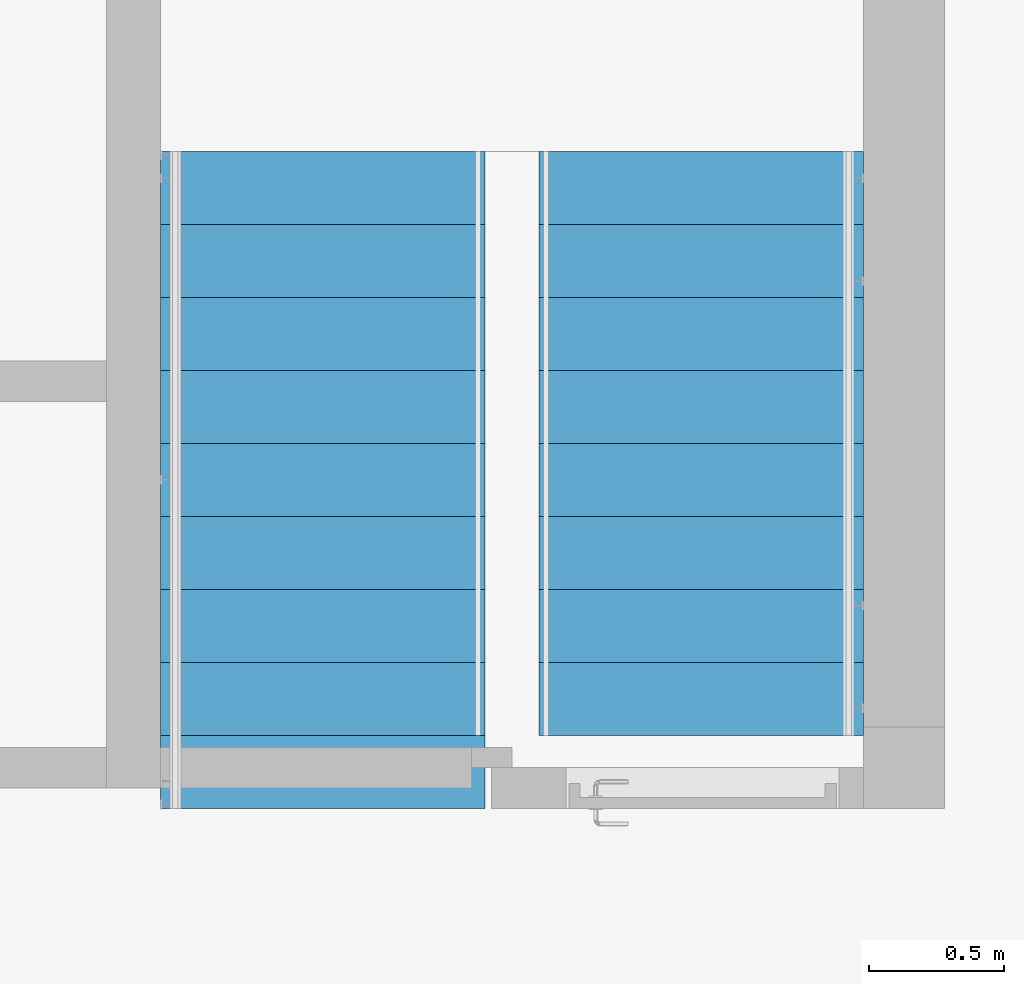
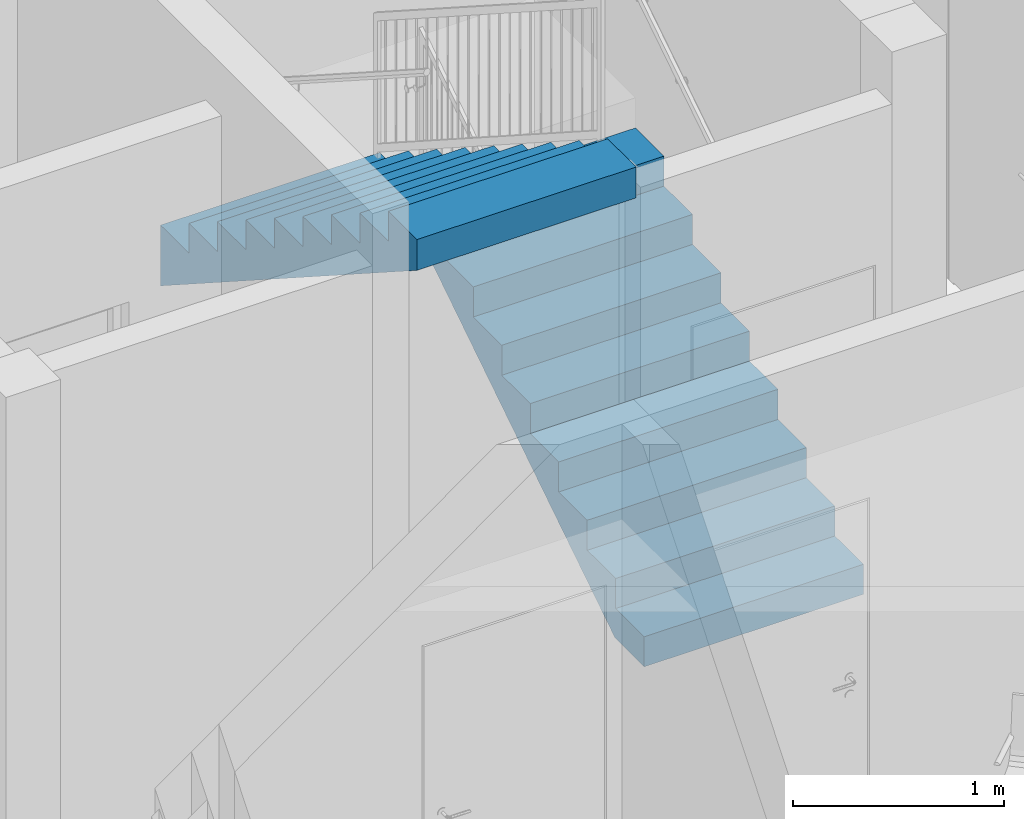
# One storey, part 38 of 58: 2 stair flights, 1 element without a shape of its own.
"""IFC2X3 building model written with IfcOpenShell, lengths in millimetres."""

from ifc_helpers import new_model, entity, si_unit, converted_unit, derived_unit, direction, frame, origin, place, context, subcontext, project, spatial, faceted_brep, material, type_object, element, aggregate, save


model = new_model("IFC2X3")

# Units and contexts
model_context = context("Model", 3, precision=0.01, world=origin(), true_north=direction((0.7716245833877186, 0.6360782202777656)))
body_context = subcontext(model_context, "Body", "Model", "MODEL_VIEW")
ifc_project = project(units=[si_unit("LENGTHUNIT", "METRE", prefix="MILLI"), si_unit("AREAUNIT", "SQUARE_METRE"), converted_unit("PLANEANGLEUNIT", "DEGREE", entity("IfcPlaneAngleMeasure", 0.017453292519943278), si_unit("PLANEANGLEUNIT", "RADIAN"), dimensions=[0, 0, 0, 0, 0, 0, 0]), derived_unit("THERMALTRANSMITTANCEUNIT", [(si_unit("MASSUNIT", "GRAM", prefix="KILO"), 1), (si_unit("THERMODYNAMICTEMPERATUREUNIT", "KELVIN"), -1), (si_unit("TIMEUNIT", "SECOND"), -3)])], contexts=[model_context])

# Site, building, storey
site_placement = place(None, origin())
site = spatial("IfcSite", under=ifc_project, at=site_placement, Name="Default", CompositionType="ELEMENT")
building_placement = place(site_placement, origin())
building = spatial("IfcBuilding", under=site, at=building_placement, CompositionType="ELEMENT")
storey_placement = place(building_placement, frame((0.0, 0.0, 31140.0)))
storey = spatial("IfcBuildingStorey", under=building, at=storey_placement, Name="PLAN U1", CompositionType="ELEMENT", Elevation=31140.000000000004)

# Stair, stair flights
type_product = type_object("IfcTypeProduct", Name="Cast-In-Place Stair:Cast-In-Place Stair")
stair_placement = place(storey_placement, origin())
stair = element("IfcStair", 1, at=stair_placement, inside=storey, type_object=type_product, Name="Cast-In-Place Stair:Stair", ObjectType="Cast-In-Place Stair:Cast-In-Place Stair", ShapeType="HALF_TURN_STAIR")
ifc_material = material(Name="<Unnamed>")
stair_flight_type = type_object("IfcStairFlightType", Name="Monolithic Run:Monolithic Run", PredefinedType="STRAIGHT")
stair_flight_1_placement = place(stair_placement, frame((269417.924446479, 59435.25555007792, 0.0)))
stair_flight_1 = element("IfcStairFlight", 2, at=stair_flight_1_placement, type_object=stair_flight_type, material=ifc_material, Name="Cast-In-Place Stair:Stair:4303045 Run 1", ObjectType="Monolithic Run:Monolithic Run", NumberOfRiser=9, NumberOfTreads=8, RiserHeight=0.569830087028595, TreadLength=0.8858267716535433, context=body_context, shape_type="Brep", body=[
    faceted_brep([(0.0, 270.0, 173.68421052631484), (0.0, 0.0, 173.68421052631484), (1200.0, 0.0, 173.68421052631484), (1200.0, 270.0, 173.68421052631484), (0.0, 270.0, 0.0), (0.0, 0.0, 0.0), (1200.0, 0.0, 0.0), (1200.0, 270.0, 0.0), (0.0, 540.0, 347.3684210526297), (0.0, 270.0, 347.3684210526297), (1200.0, 270.0, 347.3684210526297), (1200.0, 540.0, 347.3684210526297), (0.0, 540.0, 169.01327788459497), (0.0, 277.2611771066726, 0.0), (1200.0, 277.26117710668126, 0.0), (1200.0, 540.0, 169.01327788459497), (0.0, 810.0, 521.0526315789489), (0.0, 540.0, 521.0526315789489), (1200.0, 540.0, 521.0526315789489), (1200.0, 810.0, 521.0526315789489), (0.0, 810.0, 342.6974884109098), (1200.0, 810.0, 342.6974884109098), (0.0, 1080.0, 694.7368421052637), (0.0, 810.0, 694.7368421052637), (1200.0, 810.0, 694.7368421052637), (1200.0, 1080.0, 694.7368421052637), (0.0, 1080.0, 516.381698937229), (1200.0, 1080.0, 516.3816989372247), (0.0, 1350.0, 868.4210526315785), (0.0, 1080.0, 868.4210526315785), (1200.0, 1080.0, 868.4210526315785), (1200.0, 1350.0, 868.4210526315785), (0.0, 1350.0, 690.0659094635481), (1200.0, 1350.0, 690.0659094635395), (0.0, 1620.0, 1042.1052631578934), (0.0, 1350.0, 1042.1052631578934), (1200.0, 1350.0, 1042.1052631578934), (1200.0, 1620.0, 1042.1052631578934), (0.0, 1620.0, 863.7501199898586), (1200.0, 1620.0, 863.7501199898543), (0.0, 1890.0, 1215.7894736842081), (0.0, 1620.0, 1215.7894736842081), (1200.0, 1620.0, 1215.7894736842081), (1200.0, 1890.0, 1215.7894736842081), (0.0, 1890.0, 1037.4343305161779), (1200.0, 1890.0, 1037.4343305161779), (0.0, 2160.0, 1389.4736842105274), (0.0, 1890.0, 1389.4736842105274), (1200.0, 1890.0, 1389.4736842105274), (1200.0, 2160.0, 1389.4736842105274), (0.0, 2160.0, 1263.157894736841), (0.0, 2160.0, 1211.1185410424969), (1200.0, 2160.0, 1211.1185410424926)], [[[0, 1, 2, 3]], [[1, 0, 4, 5]], [[2, 1, 5, 6]], [[3, 2, 6, 7]], [[8, 9, 10, 11]], [[4, 0, 9, 8, 12, 13]], [[0, 3, 10, 9]], [[3, 7, 14, 15, 11, 10]], [[16, 17, 18, 19]], [[17, 16, 20, 12, 8]], [[8, 11, 18, 17]], [[19, 18, 11, 15, 21]], [[22, 23, 24, 25]], [[23, 22, 26, 20, 16]], [[16, 19, 24, 23]], [[25, 24, 19, 21, 27]], [[28, 29, 30, 31]], [[29, 28, 32, 26, 22]], [[22, 25, 30, 29]], [[31, 30, 25, 27, 33]], [[34, 35, 36, 37]], [[35, 34, 38, 32, 28]], [[28, 31, 36, 35]], [[37, 36, 31, 33, 39]], [[40, 41, 42, 43]], [[41, 40, 44, 38, 34]], [[34, 37, 42, 41]], [[43, 42, 37, 39, 45]], [[46, 47, 48, 49]], [[47, 46, 50, 51, 44, 40]], [[40, 43, 48, 47]], [[49, 48, 43, 45, 52]], [[46, 49, 52, 51, 50]], [[5, 4, 13, 14, 7, 6]], [[14, 13, 12, 20, 26, 32, 38, 44, 51, 52, 45, 39, 33, 27, 21, 15]]]),
])
stair_flight_2_placement = place(stair_placement, frame((268017.924446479, 59165.25555007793, 0.0)))
stair_flight_2 = element("IfcStairFlight", 3, at=stair_flight_2_placement, type_object=stair_flight_type, material=ifc_material, Name="Cast-In-Place Stair:Stair:4303045 Run 2", ObjectType="Monolithic Run:Monolithic Run", NumberOfRiser=10, NumberOfTreads=9, RiserHeight=0.569830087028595, TreadLength=0.8858267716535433, context=body_context, shape_type="Brep", body=[
    faceted_brep([(1200.0, 2160.0, 1736.842105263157), (1200.0, 2430.0, 1736.842105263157), (0.0, 2430.0, 1736.842105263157), (0.0, 2160.0, 1736.842105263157), (1200.0, 2160.0, 1558.4869620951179), (1200.0, 2430.0, 1384.8027515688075), (0.0, 2430.0, 1384.8027515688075), (0.0, 2430.0, 1563.157894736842), (0.0, 2160.0, 1558.4869620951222), (1200.0, 1890.0, 1732.1711726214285), (1200.0, 1620.0, 1905.8553831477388), (1200.0, 1350.0, 2079.5395936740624), (1200.0, 1080.0, 2253.2238042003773), (1200.0, 810.0, 2426.9080147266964), (1200.0, 540.0, 2600.5922252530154), (1200.0, 270.0, 2774.2764357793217), (1200.0, 0.0, 2947.9606463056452), (0.0, 0.0, 2947.960646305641), (0.0, 270.0, 2774.2764357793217), (0.0, 540.0, 2600.5922252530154), (0.0, 810.0, 2426.9080147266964), (0.0, 1080.0, 2253.2238042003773), (0.0, 1350.0, 2079.5395936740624), (0.0, 1620.0, 1905.8553831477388), (0.0, 1890.0, 1732.1711726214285), (1200.0, 1890.0, 1910.5263157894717), (1200.0, 2160.0, 1910.5263157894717), (0.0, 2160.0, 1910.5263157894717), (0.0, 1890.0, 1910.5263157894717), (1200.0, 1620.0, 2084.210526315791), (1200.0, 1890.0, 2084.210526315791), (0.0, 1890.0, 2084.210526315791), (0.0, 1620.0, 2084.210526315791), (1200.0, 1350.0, 2257.894736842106), (1200.0, 1620.0, 2257.894736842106), (0.0, 1620.0, 2257.894736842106), (0.0, 1350.0, 2257.894736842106), (1200.0, 1080.0, 2431.578947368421), (1200.0, 1350.0, 2431.578947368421), (0.0, 1350.0, 2431.578947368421), (0.0, 1080.0, 2431.578947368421), (1200.0, 810.0, 2605.2631578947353), (1200.0, 1080.0, 2605.2631578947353), (0.0, 1080.0, 2605.2631578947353), (0.0, 810.0, 2605.2631578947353), (1200.0, 540.0, 2778.94736842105), (1200.0, 810.0, 2778.94736842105), (0.0, 810.0, 2778.94736842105), (0.0, 540.0, 2778.94736842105), (1200.0, 270.0, 2952.6315789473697), (1200.0, 540.0, 2952.6315789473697), (0.0, 540.0, 2952.6315789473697), (0.0, 270.0, 2952.6315789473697), (1200.0, 0.0, 3126.315789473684), (1200.0, 270.0, 3126.315789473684), (0.0, 270.0, 3126.315789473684), (0.0, 0.0, 3126.315789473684)], [[[0, 1, 2, 3]], [[1, 0, 4, 5]], [[2, 1, 5, 6, 7]], [[3, 2, 7, 6, 8]], [[5, 4, 9, 10, 11, 12, 13, 14, 15, 16, 17, 18, 19, 20, 21, 22, 23, 24, 8, 6]], [[25, 26, 27, 28]], [[26, 25, 9, 4, 0]], [[27, 26, 0, 3]], [[28, 27, 3, 8, 24]], [[29, 30, 31, 32]], [[30, 29, 10, 9, 25]], [[31, 30, 25, 28]], [[32, 31, 28, 24, 23]], [[33, 34, 35, 36]], [[34, 33, 11, 10, 29]], [[35, 34, 29, 32]], [[36, 35, 32, 23, 22]], [[37, 38, 39, 40]], [[38, 37, 12, 11, 33]], [[39, 38, 33, 36]], [[40, 39, 36, 22, 21]], [[41, 42, 43, 44]], [[42, 41, 13, 12, 37]], [[43, 42, 37, 40]], [[44, 43, 40, 21, 20]], [[45, 46, 47, 48]], [[46, 45, 14, 13, 41]], [[47, 46, 41, 44]], [[48, 47, 44, 20, 19]], [[49, 50, 51, 52]], [[50, 49, 15, 14, 45]], [[51, 50, 45, 48]], [[52, 51, 48, 19, 18]], [[53, 54, 55, 56]], [[54, 53, 16, 15, 49]], [[55, 54, 49, 52]], [[56, 55, 52, 18, 17]], [[53, 56, 17, 16]]]),
])
aggregate(stair, [stair_flight_1, stair_flight_2])

save(model, "model.ifc")
